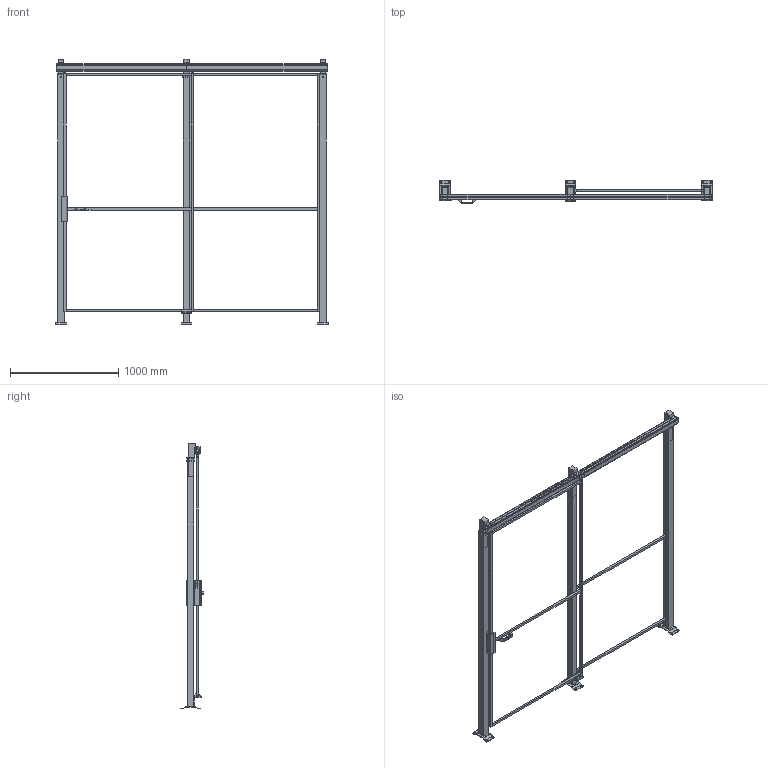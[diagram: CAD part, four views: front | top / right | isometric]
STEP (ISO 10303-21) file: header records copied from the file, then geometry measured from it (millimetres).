
FILE_DESCRIPTION(/* description */ (''),/* implementation_level */ '2;1');
FILE_NAME(/* name */ 'C:\SafeGuarding\ELABORATI\VZOR§POSUVNE_2025-02-03-14-19-13.stp',/* time_stamp */ '2025-02-03T14:19:15+01:00',/* author */ ('admin'),/* organization */ (''),/* preprocessor_version */ 'ST-DEVELOPER v18.1',/* originating_system */ 'AutoCAD Mechanical',/* authorisation */ '');
FILE_SCHEMA (('AUTOMOTIVE_DESIGN { 1 0 10303 214 3 1 1 }'));
Length unit declared in the file: millimetre
Products named in the file (4): Product; R_VFPA.REPE20.12002200; DATI_PORTA; P_VFMA.ME60SDU.2320
Assembly tree (6 placements, depth 2):
  Product
    P_VFMA.ME60SDU.2320  x3
    R_VFPA.REPE20.12002200  x2
    DATI_PORTA
Bounding box: 2520 x 219.94 x 2454 mm (x, y, z)
Volume: 37730416.3 mm3; surface area: 4620868.4 mm2
Topology: 35 solids, 46 shells, 482 faces, 1636 edges, 1662 vertices
Faces by surface type: plane 442, cylinder 38, sphere 2
Full cylindrical faces by diameter (mm): 11 x12, 12 x2, 15 x4, 40 x4
Entity records: 12706 total; most frequent: CARTESIAN_POINT 2814, DIRECTION 1928, ORIENTED_EDGE 1758, EDGE_CURVE 928, LINE 900, VECTOR 900, VERTEX_POINT 660, AXIS2_PLACEMENT_3D 514
